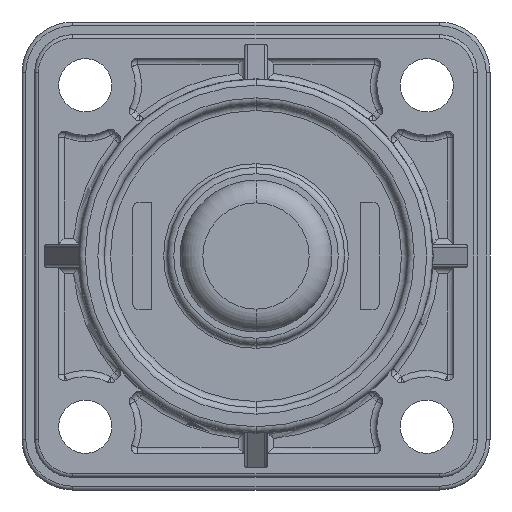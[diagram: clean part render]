
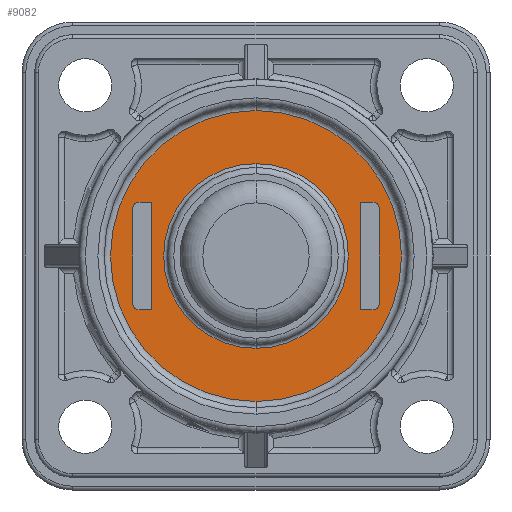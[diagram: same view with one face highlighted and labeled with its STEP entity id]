
A CAD part, front view. The second image highlights one B-rep face of the part: STEP entity #9082.
In plain terms, the highlighted planar face has unit normal (0, -1, 0).
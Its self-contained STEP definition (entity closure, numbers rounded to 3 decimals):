
#148 = EDGE_CURVE ( 'NONE', #7798, #7593, #8123, .T. ) ;
#500 = CARTESIAN_POINT ( 'NONE',  ( -9.25, -14.7, -4.25 ) ) ;
#506 = CARTESIAN_POINT ( 'NONE',  ( -9.75, -14.7, -3.75 ) ) ;
#510 = CARTESIAN_POINT ( 'NONE',  ( 9.75, -14.7, 3.75 ) ) ;
#512 = CARTESIAN_POINT ( 'NONE',  ( 0., -14.7, 7.3 ) ) ;
#639 = CARTESIAN_POINT ( 'NONE',  ( 0., -14.7, 11.5 ) ) ;
#646 = CARTESIAN_POINT ( 'NONE',  ( 0., -14.7, -11.5 ) ) ;
#665 = CARTESIAN_POINT ( 'NONE',  ( -9.25, -14.7, 4.25 ) ) ;
#666 = CARTESIAN_POINT ( 'NONE',  ( -8.25, -14.7, -4.25 ) ) ;
#670 = CARTESIAN_POINT ( 'NONE',  ( 0., -14.7, -7.3 ) ) ;
#1414 = VERTEX_POINT ( 'NONE', #3170 ) ;
#1454 = VERTEX_POINT ( 'NONE', #3210 ) ;
#1490 = VERTEX_POINT ( 'NONE', #3246 ) ;
#1491 = VERTEX_POINT ( 'NONE', #3247 ) ;
#1684 = ORIENTED_EDGE ( 'NONE', *, *, #8890, .F. ) ;
#1690 = ORIENTED_EDGE ( 'NONE', *, *, #8891, .F. ) ;
#1691 = ORIENTED_EDGE ( 'NONE', *, *, #8889, .T. ) ;
#1692 = ORIENTED_EDGE ( 'NONE', *, *, #8892, .F. ) ;
#1693 = ORIENTED_EDGE ( 'NONE', *, *, #8893, .F. ) ;
#1694 = ORIENTED_EDGE ( 'NONE', *, *, #8895, .F. ) ;
#1695 = ORIENTED_EDGE ( 'NONE', *, *, #8896, .F. ) ;
#1696 = ORIENTED_EDGE ( 'NONE', *, *, #8897, .F. ) ;
#1697 = ORIENTED_EDGE ( 'NONE', *, *, #8894, .T. ) ;
#1698 = ORIENTED_EDGE ( 'NONE', *, *, #8898, .F. ) ;
#1699 = ORIENTED_EDGE ( 'NONE', *, *, #8899, .F. ) ;
#1700 = ORIENTED_EDGE ( 'NONE', *, *, #8900, .F. ) ;
#1701 = ORIENTED_EDGE ( 'NONE', *, *, #148, .T. ) ;
#1702 = ORIENTED_EDGE ( 'NONE', *, *, #8901, .T. ) ;
#1704 = ORIENTED_EDGE ( 'NONE', *, *, #9184, .T. ) ;
#1705 = ORIENTED_EDGE ( 'NONE', *, *, #8902, .T. ) ;
#2915 = CARTESIAN_POINT ( 'NONE',  ( 0., -14.7, 0. ) ) ;
#2916 = DIRECTION ( 'NONE',  ( 0., 1., 0. ) ) ;
#2917 = DIRECTION ( 'NONE',  ( 0., 0., -1. ) ) ;
#3170 = CARTESIAN_POINT ( 'NONE',  ( 9.75, -14.7, -3.75 ) ) ;
#3210 = CARTESIAN_POINT ( 'NONE',  ( -9.75, -14.7, 3.75 ) ) ;
#3246 = CARTESIAN_POINT ( 'NONE',  ( 8.25, -14.7, -4.25 ) ) ;
#3247 = CARTESIAN_POINT ( 'NONE',  ( 9.25, -14.7, -4.25 ) ) ;
#3336 = CARTESIAN_POINT ( 'NONE',  ( 8.25, -14.7, 4.25 ) ) ;
#3357 = CARTESIAN_POINT ( 'NONE',  ( -8.25, -14.7, 4.25 ) ) ;
#3364 = CARTESIAN_POINT ( 'NONE',  ( 9.25, -14.7, 4.25 ) ) ;
#3805 = CIRCLE ( 'NONE', #5880, 0.5 ) ;
#3806 = CIRCLE ( 'NONE', #5886, 0.5 ) ;
#3807 = CIRCLE ( 'NONE', #5883, 0.5 ) ;
#3808 = CIRCLE ( 'NONE', #5877, 0.5 ) ;
#3809 = CIRCLE ( 'NONE', #5878, 11.5 ) ;
#3810 = CIRCLE ( 'NONE', #5893, 7.3 ) ;
#3934 = CIRCLE ( 'NONE', #6429, 11.5 ) ;
#4386 = EDGE_LOOP ( 'NONE', ( #1684, #1691, #1690, #1692, #1693, #1694 ) ) ;
#4387 = EDGE_LOOP ( 'NONE', ( #1695, #1697, #1696, #1698, #1699, #1700 ) ) ;
#4388 = EDGE_LOOP ( 'NONE', ( #1702, #1704 ) ) ;
#4389 = EDGE_LOOP ( 'NONE', ( #1701, #1705 ) ) ;
#5110 = CARTESIAN_POINT ( 'NONE',  ( -9.25, -14.7, -3.75 ) ) ;
#5111 = LINE ( 'NONE', #5112, #5881 ) ;
#5112 = CARTESIAN_POINT ( 'NONE',  ( -8.25, -14.7, 5.651 ) ) ;
#5113 = DIRECTION ( 'NONE',  ( 0., 0., -1. ) ) ;
#5114 = LINE ( 'NONE', #5115, #5882 ) ;
#5115 = CARTESIAN_POINT ( 'NONE',  ( -8.25, -14.7, 4.25 ) ) ;
#5116 = DIRECTION ( 'NONE',  ( -1., 0., 0. ) ) ;
#5117 = LINE ( 'NONE', #5118, #5884 ) ;
#5118 = CARTESIAN_POINT ( 'NONE',  ( -8.25, -14.7, -4.25 ) ) ;
#5119 = DIRECTION ( 'NONE',  ( 1., 0., 0. ) ) ;
#5120 = DIRECTION ( 'NONE',  ( 0., -1., 0. ) ) ;
#5121 = DIRECTION ( 'NONE',  ( 0., 0., 1. ) ) ;
#5122 = CARTESIAN_POINT ( 'NONE',  ( -9.25, -14.7, 3.75 ) ) ;
#5123 = LINE ( 'NONE', #5124, #5885 ) ;
#5124 = CARTESIAN_POINT ( 'NONE',  ( -9.75, -14.7, 3.75 ) ) ;
#5125 = DIRECTION ( 'NONE',  ( 0., 0., -1. ) ) ;
#5126 = LINE ( 'NONE', #5127, #5887 ) ;
#5127 = CARTESIAN_POINT ( 'NONE',  ( 8.25, -14.7, 5.651 ) ) ;
#5128 = DIRECTION ( 'NONE',  ( 0., 0., 1. ) ) ;
#5129 = DIRECTION ( 'NONE',  ( 0., -1., 0. ) ) ;
#5130 = DIRECTION ( 'NONE',  ( 0., 0., 1. ) ) ;
#5131 = CARTESIAN_POINT ( 'NONE',  ( 9.25, -14.7, 3.75 ) ) ;
#5132 = LINE ( 'NONE', #5133, #5888 ) ;
#5133 = CARTESIAN_POINT ( 'NONE',  ( 8.25, -14.7, -4.25 ) ) ;
#5134 = DIRECTION ( 'NONE',  ( 1., 0., 0. ) ) ;
#5135 = LINE ( 'NONE', #5136, #5890 ) ;
#5136 = CARTESIAN_POINT ( 'NONE',  ( 8.25, -14.7, 4.25 ) ) ;
#5137 = DIRECTION ( 'NONE',  ( -1., 0., 0. ) ) ;
#5138 = DIRECTION ( 'NONE',  ( 0., -1., 0. ) ) ;
#5139 = DIRECTION ( 'NONE',  ( 0., 0., 1. ) ) ;
#5140 = CARTESIAN_POINT ( 'NONE',  ( 9.25, -14.7, -3.75 ) ) ;
#5141 = LINE ( 'NONE', #5142, #5891 ) ;
#5142 = CARTESIAN_POINT ( 'NONE',  ( 9.75, -14.7, 3.75 ) ) ;
#5143 = DIRECTION ( 'NONE',  ( 0., 0., 1. ) ) ;
#5144 = DIRECTION ( 'NONE',  ( 0., -1., 0. ) ) ;
#5145 = DIRECTION ( 'NONE',  ( 0., 0., 1. ) ) ;
#5146 = CARTESIAN_POINT ( 'NONE',  ( 0., -14.7, 0. ) ) ;
#5147 = DIRECTION ( 'NONE',  ( 0., -1., 0. ) ) ;
#5148 = DIRECTION ( 'NONE',  ( 0., 0., -1. ) ) ;
#5149 = CARTESIAN_POINT ( 'NONE',  ( 0., -14.7, 0. ) ) ;
#5150 = DIRECTION ( 'NONE',  ( 0., 1., 0. ) ) ;
#5151 = DIRECTION ( 'NONE',  ( 0., 0., -1. ) ) ;
#5877 = AXIS2_PLACEMENT_3D ( 'NONE', #5140, #5144, #5145 ) ;
#5878 = AXIS2_PLACEMENT_3D ( 'NONE', #5146, #5147, #5148 ) ;
#5880 = AXIS2_PLACEMENT_3D ( 'NONE', #5110, #5120, #5121 ) ;
#5881 = VECTOR ( 'NONE', #5113, 1000. ) ;
#5882 = VECTOR ( 'NONE', #5116, 1000. ) ;
#5883 = AXIS2_PLACEMENT_3D ( 'NONE', #5131, #5138, #5139 ) ;
#5884 = VECTOR ( 'NONE', #5119, 1000. ) ;
#5885 = VECTOR ( 'NONE', #5125, 1000. ) ;
#5886 = AXIS2_PLACEMENT_3D ( 'NONE', #5122, #5129, #5130 ) ;
#5887 = VECTOR ( 'NONE', #5128, 1000. ) ;
#5888 = VECTOR ( 'NONE', #5134, 1000. ) ;
#5890 = VECTOR ( 'NONE', #5137, 1000. ) ;
#5891 = VECTOR ( 'NONE', #5143, 1000. ) ;
#5893 = AXIS2_PLACEMENT_3D ( 'NONE', #5149, #5150, #5151 ) ;
#6199 = FACE_BOUND ( 'NONE', #4387, .T. ) ;
#6200 = FACE_BOUND ( 'NONE', #4386, .T. ) ;
#6202 = AXIS2_PLACEMENT_3D ( 'NONE', #6472, #6473, #6474 ) ;
#6206 = FACE_OUTER_BOUND ( 'NONE', #4388, .T. ) ;
#6208 = FACE_BOUND ( 'NONE', #4389, .T. ) ;
#6429 = AXIS2_PLACEMENT_3D ( 'NONE', #6824, #6825, #6826 ) ;
#6471 = PLANE ( 'NONE',  #6202 ) ;
#6472 = CARTESIAN_POINT ( 'NONE',  ( -14.5, -14.7, -14.5 ) ) ;
#6473 = DIRECTION ( 'NONE',  ( 0., -1., 0. ) ) ;
#6474 = DIRECTION ( 'NONE',  ( 0., 0., -1. ) ) ;
#6824 = CARTESIAN_POINT ( 'NONE',  ( 0., -14.7, 0. ) ) ;
#6825 = DIRECTION ( 'NONE',  ( 0., -1., 0. ) ) ;
#6826 = DIRECTION ( 'NONE',  ( 0., 0., -1. ) ) ;
#7012 = VERTEX_POINT ( 'NONE', #3336 ) ;
#7033 = VERTEX_POINT ( 'NONE', #3357 ) ;
#7040 = VERTEX_POINT ( 'NONE', #3364 ) ;
#7316 = AXIS2_PLACEMENT_3D ( 'NONE', #2915, #2916, #2917 ) ;
#7580 = VERTEX_POINT ( 'NONE', #500 ) ;
#7586 = VERTEX_POINT ( 'NONE', #506 ) ;
#7591 = VERTEX_POINT ( 'NONE', #510 ) ;
#7593 = VERTEX_POINT ( 'NONE', #512 ) ;
#7767 = VERTEX_POINT ( 'NONE', #639 ) ;
#7774 = VERTEX_POINT ( 'NONE', #646 ) ;
#7793 = VERTEX_POINT ( 'NONE', #665 ) ;
#7794 = VERTEX_POINT ( 'NONE', #666 ) ;
#7798 = VERTEX_POINT ( 'NONE', #670 ) ;
#8123 = CIRCLE ( 'NONE', #7316, 7.3 ) ;
#8889 = EDGE_CURVE ( 'NONE', #7033, #7794, #5111, .T. ) ;
#8890 = EDGE_CURVE ( 'NONE', #7033, #7793, #5114, .T. ) ;
#8891 = EDGE_CURVE ( 'NONE', #7580, #7794, #5117, .T. ) ;
#8892 = EDGE_CURVE ( 'NONE', #7586, #7580, #3805, .T. ) ;
#8893 = EDGE_CURVE ( 'NONE', #1454, #7586, #5123, .T. ) ;
#8894 = EDGE_CURVE ( 'NONE', #1490, #7012, #5126, .T. ) ;
#8895 = EDGE_CURVE ( 'NONE', #7793, #1454, #3806, .T. ) ;
#8896 = EDGE_CURVE ( 'NONE', #1490, #1491, #5132, .T. ) ;
#8897 = EDGE_CURVE ( 'NONE', #7040, #7012, #5135, .T. ) ;
#8898 = EDGE_CURVE ( 'NONE', #7591, #7040, #3807, .T. ) ;
#8899 = EDGE_CURVE ( 'NONE', #1414, #7591, #5141, .T. ) ;
#8900 = EDGE_CURVE ( 'NONE', #1491, #1414, #3808, .T. ) ;
#8901 = EDGE_CURVE ( 'NONE', #7774, #7767, #3809, .T. ) ;
#8902 = EDGE_CURVE ( 'NONE', #7593, #7798, #3810, .T. ) ;
#9082 = ADVANCED_FACE ( 'NONE', ( #6200, #6199, #6206, #6208 ), #6471, .T. ) ;
#9184 = EDGE_CURVE ( 'NONE', #7767, #7774, #3934, .T. ) ;
